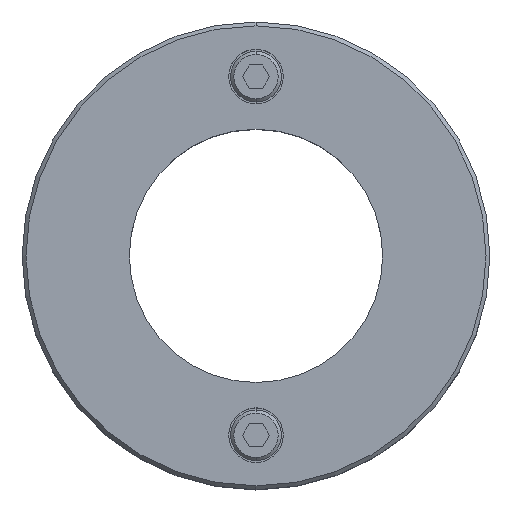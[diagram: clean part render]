
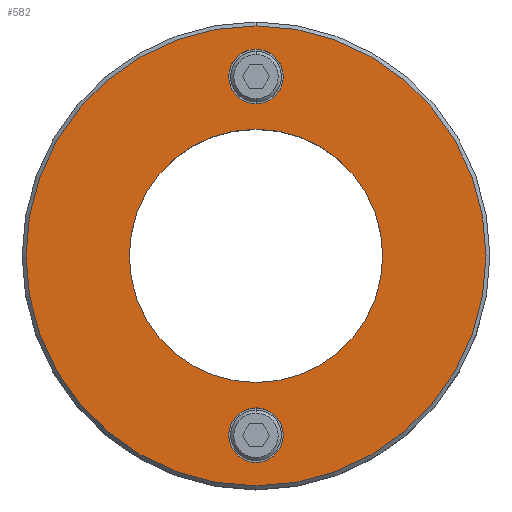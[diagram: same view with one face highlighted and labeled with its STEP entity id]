
A CAD part, top view. The second image highlights one B-rep face of the part: STEP entity #582.
In plain terms, the highlighted planar face has unit normal (0, 0, 1).
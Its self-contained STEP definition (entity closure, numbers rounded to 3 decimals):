
#105=VERTEX_POINT(' ',#106);
#106=CARTESIAN_POINT('',(0.,32.5,40.));
#107=VERTEX_POINT(' ',#108);
#108=CARTESIAN_POINT('',(0.,-32.5,40.));
#117=VERTEX_POINT(' ',#118);
#118=CARTESIAN_POINT('',(0.,53.,40.));
#119=VERTEX_POINT(' ',#120);
#120=CARTESIAN_POINT('',(0.,39.,40.));
#125=VERTEX_POINT(' ',#126);
#126=CARTESIAN_POINT('',(0.,-39.,40.));
#127=VERTEX_POINT(' ',#128);
#128=CARTESIAN_POINT('',(0.,-53.,40.));
#137=VERTEX_POINT(' ',#138);
#138=CARTESIAN_POINT('',(0.,-59.01,40.));
#139=VERTEX_POINT(' ',#140);
#140=CARTESIAN_POINT('',(0.,59.01,40.));
#199=CIRCLE('',#200,32.5);
#200=AXIS2_PLACEMENT_3D('',#201,#202,#203);
#201=CARTESIAN_POINT('',(0.,0.,40.));
#202=DIRECTION('',(0.,0.,-1.));
#203=DIRECTION('',(-1.,0.,0.));
#204=EDGE_CURVE(' ',#105,#107,#199,.T.);
#205=CIRCLE('',#206,32.5);
#206=AXIS2_PLACEMENT_3D('',#207,#208,#209);
#207=CARTESIAN_POINT('',(0.,0.,40.));
#208=DIRECTION('',(0.,0.,-1.));
#209=DIRECTION('',(1.,0.,0.));
#210=EDGE_CURVE(' ',#107,#105,#205,.T.);
#255=CIRCLE('',#256,7.);
#256=AXIS2_PLACEMENT_3D('',#257,#258,#259);
#257=CARTESIAN_POINT('',(0.,46.,40.));
#258=DIRECTION('',(0.,0.,1.));
#259=DIRECTION('',(1.,0.,0.));
#260=EDGE_CURVE(' ',#117,#119,#255,.T.);
#277=CIRCLE('',#278,7.);
#278=AXIS2_PLACEMENT_3D('',#279,#280,#281);
#279=CARTESIAN_POINT('',(0.,46.,40.));
#280=DIRECTION('',(0.,0.,1.));
#281=DIRECTION('',(-1.,0.,0.));
#282=EDGE_CURVE(' ',#119,#117,#277,.T.);
#289=CIRCLE('',#290,7.);
#290=AXIS2_PLACEMENT_3D('',#291,#292,#293);
#291=CARTESIAN_POINT('',(0.,-46.,40.));
#292=DIRECTION('',(0.,0.,1.));
#293=DIRECTION('',(1.,0.,0.));
#294=EDGE_CURVE(' ',#125,#127,#289,.T.);
#311=CIRCLE('',#312,7.);
#312=AXIS2_PLACEMENT_3D('',#313,#314,#315);
#313=CARTESIAN_POINT('',(0.,-46.,40.));
#314=DIRECTION('',(0.,0.,1.));
#315=DIRECTION('',(-1.,0.,0.));
#316=EDGE_CURVE(' ',#127,#125,#311,.T.);
#345=CIRCLE('',#346,59.01);
#346=AXIS2_PLACEMENT_3D('',#347,#348,#349);
#347=CARTESIAN_POINT('',(0.,0.,40.));
#348=DIRECTION('',(0.,0.,1.));
#349=DIRECTION('',(-1.,0.,0.));
#350=EDGE_CURVE(' ',#139,#137,#345,.F.);
#351=CIRCLE('',#352,59.01);
#352=AXIS2_PLACEMENT_3D('',#353,#354,#355);
#353=CARTESIAN_POINT('',(0.,0.,40.));
#354=DIRECTION('',(0.,0.,1.));
#355=DIRECTION('',(1.,0.,0.));
#356=EDGE_CURVE(' ',#137,#139,#351,.F.);
#561=ORIENTED_EDGE('',*,*,#350,.F.);
#562=ORIENTED_EDGE('',*,*,#356,.F.);
#563=EDGE_LOOP('',(#561,#562));
#564=FACE_OUTER_BOUND('',#563,.T.);
#565=ORIENTED_EDGE('',*,*,#316,.F.);
#566=ORIENTED_EDGE('',*,*,#294,.F.);
#567=EDGE_LOOP('',(#565,#566));
#568=FACE_BOUND('',#567,.T.);
#569=ORIENTED_EDGE('',*,*,#282,.F.);
#570=ORIENTED_EDGE('',*,*,#260,.F.);
#571=EDGE_LOOP('',(#569,#570));
#572=FACE_BOUND('',#571,.T.);
#573=ORIENTED_EDGE('',*,*,#204,.T.);
#574=ORIENTED_EDGE('',*,*,#210,.T.);
#575=EDGE_LOOP('',(#573,#574));
#576=FACE_BOUND('',#575,.T.);
#577=PLANE('',#578);
#578=AXIS2_PLACEMENT_3D('',#579,#580,#581);
#579=CARTESIAN_POINT('',(60.,0.,40.));
#580=DIRECTION('',(0.,0.,1.));
#581=DIRECTION('',(0.,1.,0.));
#582=ADVANCED_FACE('',(#564,#568,#572,#576),#577,.T.);
